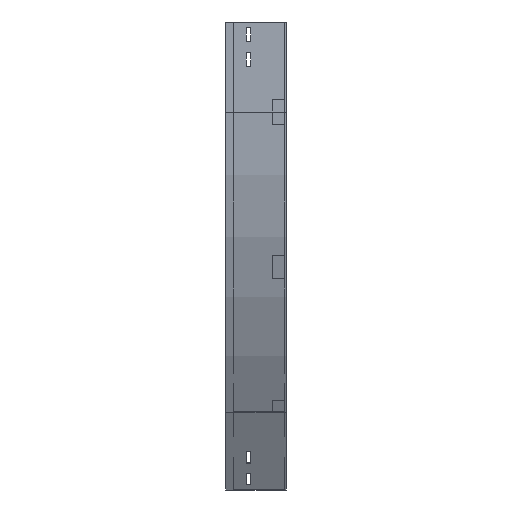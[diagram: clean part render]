
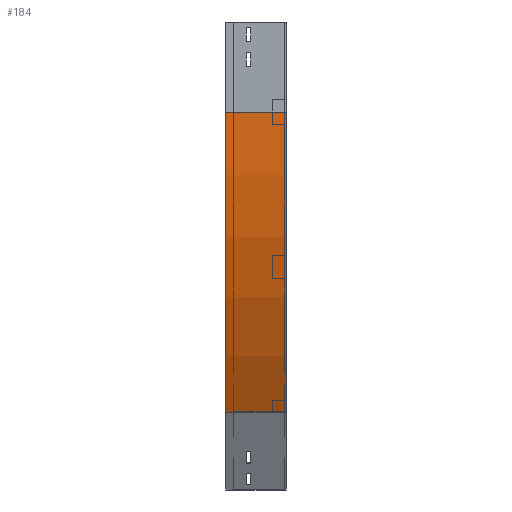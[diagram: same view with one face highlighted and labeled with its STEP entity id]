
A CAD part, left-side view. The second image highlights one B-rep face of the part: STEP entity #184.
In plain terms, the highlighted cylindrical face has radius 1000 mm (diameter 2000 mm), a partial arc.
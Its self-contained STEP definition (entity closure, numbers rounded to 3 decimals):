
#45 = DIRECTION ( 'NONE',  ( 0., 0., -1. ) ) ;
#184 = ADVANCED_FACE ( 'NONE', ( #1520 ), #676, .T. ) ;
#231 = DIRECTION ( 'NONE',  ( 0., -1., 0. ) ) ;
#676 = CYLINDRICAL_SURFACE ( 'NONE', #2301, 1000. ) ;
#722 = CARTESIAN_POINT ( 'NONE',  ( 1000., 100., -150. ) ) ;
#821 = CIRCLE ( 'NONE', #3028, 1000. ) ;
#923 = LINE ( 'NONE', #943, #3240 ) ;
#943 = CARTESIAN_POINT ( 'NONE',  ( 0., 0., -150. ) ) ;
#998 = CARTESIAN_POINT ( 'NONE',  ( 0., 0., -150. ) ) ;
#1000 = DIRECTION ( 'NONE',  ( -1., 0., 0. ) ) ;
#1019 = CARTESIAN_POINT ( 'NONE',  ( 0., 100., -150. ) ) ;
#1175 = VECTOR ( 'NONE', #231, 1000. ) ;
#1297 = ORIENTED_EDGE ( 'NONE', *, *, #2598, .F. ) ;
#1305 = CIRCLE ( 'NONE', #3606, 1000. ) ;
#1439 = EDGE_CURVE ( 'NONE', #3399, #3460, #821, .T. ) ;
#1520 = FACE_OUTER_BOUND ( 'NONE', #1744, .T. ) ;
#1733 = ORIENTED_EDGE ( 'NONE', *, *, #2495, .F. ) ;
#1744 = EDGE_LOOP ( 'NONE', ( #1733, #1297, #2453, #3289 ) ) ;
#1753 = CARTESIAN_POINT ( 'NONE',  ( 133.975, 0., -650. ) ) ;
#1860 = DIRECTION ( 'NONE',  ( 0., -1., 0. ) ) ;
#1926 = EDGE_CURVE ( 'NONE', #3460, #2989, #2609, .T. ) ;
#2137 = DIRECTION ( 'NONE',  ( 0., -1., 0. ) ) ;
#2301 = AXIS2_PLACEMENT_3D ( 'NONE', #3367, #2730, #45 ) ;
#2406 = DIRECTION ( 'NONE',  ( -1., 0., 0. ) ) ;
#2453 = ORIENTED_EDGE ( 'NONE', *, *, #1439, .T. ) ;
#2495 = EDGE_CURVE ( 'NONE', #3703, #2989, #1305, .T. ) ;
#2591 = CARTESIAN_POINT ( 'NONE',  ( 133.975, 0., -650. ) ) ;
#2598 = EDGE_CURVE ( 'NONE', #3399, #3703, #923, .T. ) ;
#2609 = LINE ( 'NONE', #2591, #1175 ) ;
#2730 = DIRECTION ( 'NONE',  ( 0., -1., 0. ) ) ;
#2989 = VERTEX_POINT ( 'NONE', #1753 ) ;
#3028 = AXIS2_PLACEMENT_3D ( 'NONE', #722, #1860, #1000 ) ;
#3071 = CARTESIAN_POINT ( 'NONE',  ( 1000., 0., -150. ) ) ;
#3240 = VECTOR ( 'NONE', #2137, 1000. ) ;
#3289 = ORIENTED_EDGE ( 'NONE', *, *, #1926, .T. ) ;
#3367 = CARTESIAN_POINT ( 'NONE',  ( 1000., 0., -150. ) ) ;
#3399 = VERTEX_POINT ( 'NONE', #1019 ) ;
#3460 = VERTEX_POINT ( 'NONE', #3818 ) ;
#3606 = AXIS2_PLACEMENT_3D ( 'NONE', #3071, #3848, #2406 ) ;
#3703 = VERTEX_POINT ( 'NONE', #998 ) ;
#3818 = CARTESIAN_POINT ( 'NONE',  ( 133.975, 100., -650. ) ) ;
#3848 = DIRECTION ( 'NONE',  ( 0., -1., 0. ) ) ;
